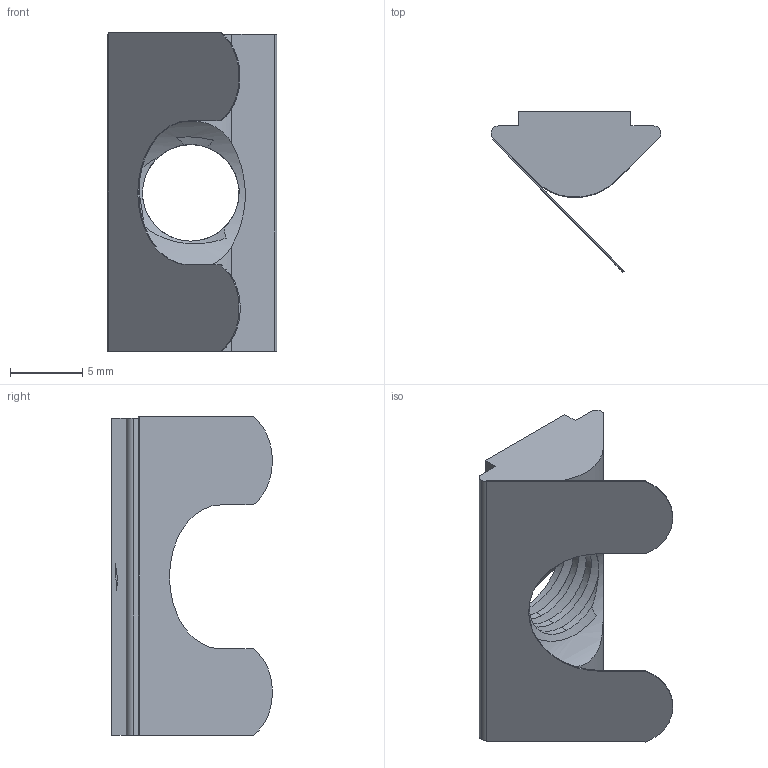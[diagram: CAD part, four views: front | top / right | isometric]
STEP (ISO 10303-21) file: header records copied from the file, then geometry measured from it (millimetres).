
FILE_DESCRIPTION (( 'STEP AP203' ), '1' );
FILE_NAME ('132-CE-LSN-40-M8.STEP', '2015-07-09T08:58:52', ( '' ), ( '' ), 'SwSTEP 2.0', 'SolidWorks 2013', '' );
FILE_SCHEMA (( 'CONFIG_CONTROL_DESIGN' ));
Length unit declared in the file: millimetre
Products named in the file (1): 132-CE-LSN-40-M8
Bounding box: 11.79 x 11.14 x 22.12 mm (x, y, z)
Volume: 832.3 mm3; surface area: 1039.7 mm2
Topology: 1 solids, 1 shells, 39 faces, 122 edges, 81 vertices
Faces by surface type: cylinder 20, plane 14, bspline 5
Entity records: 3437 total; most frequent: CARTESIAN_POINT 2392, ORIENTED_EDGE 244, DIRECTION 160, EDGE_CURVE 122, VERTEX_POINT 81, LINE 54, VECTOR 54, AXIS2_PLACEMENT_3D 53
